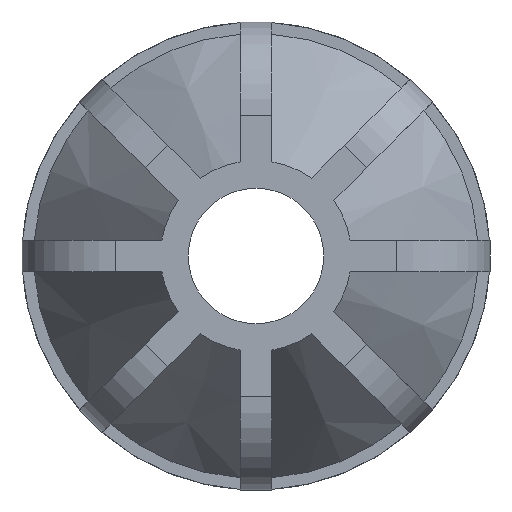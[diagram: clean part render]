
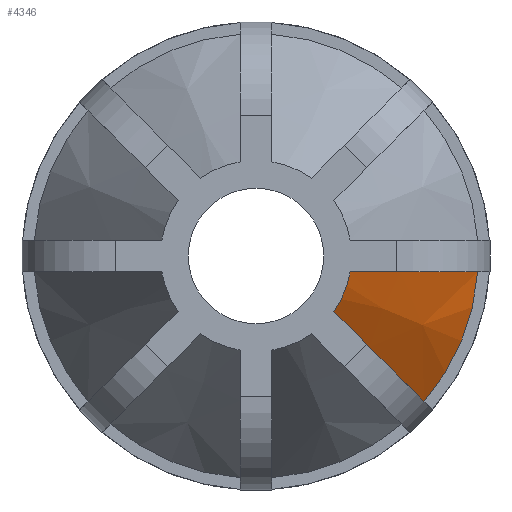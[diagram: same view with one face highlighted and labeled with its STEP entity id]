
A CAD part, left-side view. The second image highlights one B-rep face of the part: STEP entity #4346.
In plain terms, the highlighted conical face has half-angle 32.511 degrees and reference radius 21.735 mm.
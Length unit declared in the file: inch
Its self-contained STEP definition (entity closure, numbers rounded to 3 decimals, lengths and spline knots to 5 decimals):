
#25=CONICAL_SURFACE('',#4693,0.85571,0.567);
#99=(
BOUNDED_CURVE()
B_SPLINE_CURVE(2,(#6999,#7000,#7001),.UNSPECIFIED.,.F.,.F.)
B_SPLINE_CURVE_WITH_KNOTS((3,3),(0.,3.23143),.UNSPECIFIED.)
CURVE()
GEOMETRIC_REPRESENTATION_ITEM()
RATIONAL_B_SPLINE_CURVE((1.,1.092,1.))
REPRESENTATION_ITEM('')
);
#108=(
BOUNDED_CURVE()
B_SPLINE_CURVE(2,(#7179,#7180,#7181),.UNSPECIFIED.,.F.,.F.)
B_SPLINE_CURVE_WITH_KNOTS((3,3),(0.,3.23143),.UNSPECIFIED.)
CURVE()
GEOMETRIC_REPRESENTATION_ITEM()
RATIONAL_B_SPLINE_CURVE((1.,1.092,1.))
REPRESENTATION_ITEM('')
);
#394=FACE_OUTER_BOUND('',#616,.T.);
#616=EDGE_LOOP('',(#3340,#3341,#3342,#3343));
#1500=CIRCLE('',#4689,0.51441);
#1504=CIRCLE('',#4694,1.197);
#1829=VERTEX_POINT('',#6996);
#1830=VERTEX_POINT('',#6998);
#1880=VERTEX_POINT('',#7166);
#1884=VERTEX_POINT('',#7177);
#2342=EDGE_CURVE('',#1830,#1829,#99,.T.);
#2420=EDGE_CURVE('',#1880,#1830,#1500,.T.);
#2426=EDGE_CURVE('',#1884,#1829,#1504,.T.);
#2427=EDGE_CURVE('',#1884,#1880,#108,.T.);
#3340=ORIENTED_EDGE('',*,*,#2342,.T.);
#3341=ORIENTED_EDGE('',*,*,#2426,.F.);
#3342=ORIENTED_EDGE('',*,*,#2427,.T.);
#3343=ORIENTED_EDGE('',*,*,#2420,.T.);
#4346=ADVANCED_FACE('',(#394),#25,.T.);
#4689=AXIS2_PLACEMENT_3D('',#7167,#5563,#5564);
#4693=AXIS2_PLACEMENT_3D('',#7176,#5573,#5574);
#4694=AXIS2_PLACEMENT_3D('',#7178,#5575,#5576);
#5563=DIRECTION('center_axis',(1.,0.,0.));
#5564=DIRECTION('ref_axis',(0.,0.,-1.));
#5573=DIRECTION('center_axis',(1.,0.,0.));
#5574=DIRECTION('ref_axis',(0.,1.,0.));
#5575=DIRECTION('center_axis',(1.,0.,0.));
#5576=DIRECTION('ref_axis',(0.,0.,-1.));
#6996=CARTESIAN_POINT('',(-2.829,-0.90451,-0.78401));
#6998=CARTESIAN_POINT('',(-3.9,-0.41897,-0.29848));
#6999=CARTESIAN_POINT('Ctrl Pts',(-3.9,-0.41897,-0.29848));
#7000=CARTESIAN_POINT('Ctrl Pts',(-3.58063,-0.56491,
-0.44442));
#7001=CARTESIAN_POINT('Ctrl Pts',(-2.829,-0.90451,-0.78401));
#7166=CARTESIAN_POINT('',(-3.9,-0.50731,-0.0852));
#7167=CARTESIAN_POINT('Origin',(-3.9,0.,0.));
#7176=CARTESIAN_POINT('Origin',(-3.3645,0.,0.));
#7177=CARTESIAN_POINT('',(-2.829,-1.19396,-0.0852));
#7178=CARTESIAN_POINT('Origin',(-2.829,0.,0.));
#7179=CARTESIAN_POINT('Ctrl Pts',(-2.829,-1.19396,-0.0852));
#7180=CARTESIAN_POINT('Ctrl Pts',(-3.58063,-0.7137,
-0.0852));
#7181=CARTESIAN_POINT('Ctrl Pts',(-3.9,-0.50731,-0.0852));
